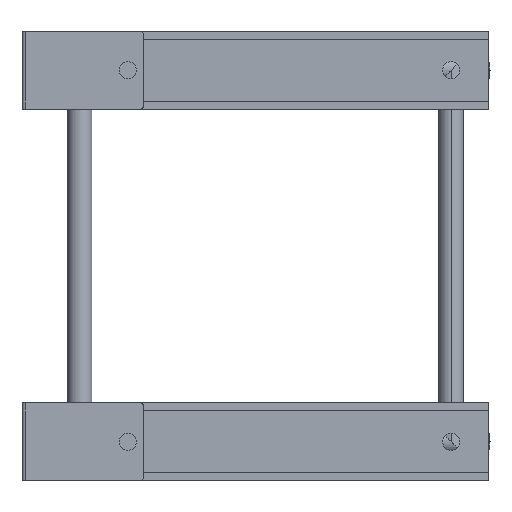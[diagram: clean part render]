
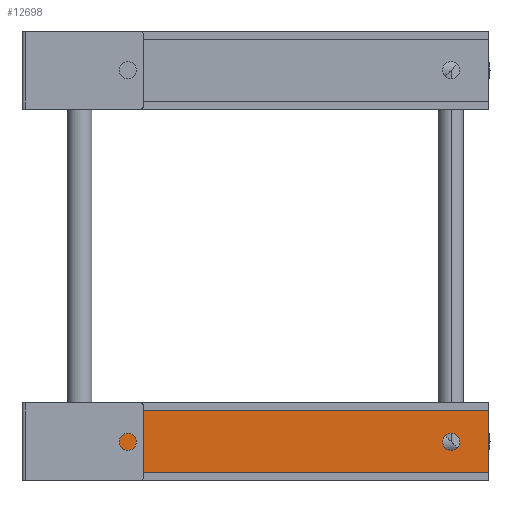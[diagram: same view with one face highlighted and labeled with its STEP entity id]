
A CAD part, left-side view. The second image highlights one B-rep face of the part: STEP entity #12698.
In plain terms, the highlighted planar face has unit normal (-1, 0, 0).
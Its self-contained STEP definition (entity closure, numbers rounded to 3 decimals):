
#10680 = CARTESIAN_POINT ( 'NONE',  ( 320., -222., 45. ) ) ;
#10752 = DIRECTION ( 'NONE',  ( 0., 1., 0. ) ) ;
#10753 = VECTOR ( 'NONE', #10752, 1000. ) ;
#10754 = CARTESIAN_POINT ( 'NONE',  ( 320., -222., 45. ) ) ;
#10755 = LINE ( 'NONE', #10754, #10753 ) ;
#10789 = DIRECTION ( 'NONE',  ( 0., 1., 0. ) ) ;
#10790 = DIRECTION ( 'NONE',  ( -1., 0., 0. ) ) ;
#10791 = CARTESIAN_POINT ( 'NONE',  ( 320., 41., 25. ) ) ;
#10792 = AXIS2_PLACEMENT_3D ( 'NONE', #10791, #10790, #10789 ) ;
#10793 = CIRCLE ( 'NONE', #10792, 5.5 ) ;
#10815 = DIRECTION ( 'NONE',  ( 0., 1., 0. ) ) ;
#10817 = DIRECTION ( 'NONE',  ( 1., 0., 0. ) ) ;
#10818 = CARTESIAN_POINT ( 'NONE',  ( 320., -222., 5. ) ) ;
#10820 = AXIS2_PLACEMENT_3D ( 'NONE', #10818, #10817, #10815 ) ;
#10821 = PLANE ( 'NONE',  #10820 ) ;
#10822 = FACE_OUTER_BOUND ( 'NONE', #12443, .T. ) ;
#10823 = FACE_BOUND ( 'NONE', #12625, .T. ) ;
#10824 = FACE_BOUND ( 'NONE', #12510, .T. ) ;
#10832 = DIRECTION ( 'NONE',  ( 0., 1., 0. ) ) ;
#10833 = DIRECTION ( 'NONE',  ( -1., 0., 0. ) ) ;
#10834 = CARTESIAN_POINT ( 'NONE',  ( 320., -198., 25. ) ) ;
#10835 = AXIS2_PLACEMENT_3D ( 'NONE', #10834, #10833, #10832 ) ;
#10836 = CIRCLE ( 'NONE', #10835, 5.5 ) ;
#10883 = DIRECTION ( 'NONE',  ( 0., 0., -1. ) ) ;
#10884 = VECTOR ( 'NONE', #10883, 1000. ) ;
#10885 = CARTESIAN_POINT ( 'NONE',  ( 320., -222., 5. ) ) ;
#10889 = LINE ( 'NONE', #10885, #10884 ) ;
#10977 = DIRECTION ( 'NONE',  ( 0., 1., 0. ) ) ;
#10978 = VECTOR ( 'NONE', #10977, 1000. ) ;
#10979 = CARTESIAN_POINT ( 'NONE',  ( 320., -222., 5. ) ) ;
#10980 = LINE ( 'NONE', #10979, #10978 ) ;
#10984 = CARTESIAN_POINT ( 'NONE',  ( 320., -222., 5. ) ) ;
#11361 = DIRECTION ( 'NONE',  ( 0., 0., -1. ) ) ;
#11362 = VECTOR ( 'NONE', #11361, 1000. ) ;
#11363 = CARTESIAN_POINT ( 'NONE',  ( 320., 70., 5. ) ) ;
#11364 = LINE ( 'NONE', #11363, #11362 ) ;
#11365 = CARTESIAN_POINT ( 'NONE',  ( 320., 70., 5. ) ) ;
#11366 = CARTESIAN_POINT ( 'NONE',  ( 320., 70., 45. ) ) ;
#11738 = VERTEX_POINT ( 'NONE', #10680 ) ;
#12122 = CARTESIAN_POINT ( 'NONE',  ( 320., -198., 19.5 ) ) ;
#12123 = DIRECTION ( 'NONE',  ( 0., 1., 0. ) ) ;
#12124 = DIRECTION ( 'NONE',  ( -1., 0., 0. ) ) ;
#12125 = CARTESIAN_POINT ( 'NONE',  ( 320., -198., 25. ) ) ;
#12126 = AXIS2_PLACEMENT_3D ( 'NONE', #12125, #12124, #12123 ) ;
#12127 = CIRCLE ( 'NONE', #12126, 5.5 ) ;
#12133 = CARTESIAN_POINT ( 'NONE',  ( 320., -198., 30.5 ) ) ;
#12153 = CIRCLE ( 'NONE', #12222, 5.5 ) ;
#12158 = CARTESIAN_POINT ( 'NONE',  ( 320., 41., 19.5 ) ) ;
#12159 = EDGE_CURVE ( 'NONE', #11738, #15235, #10755, .T. ) ;
#12218 = CARTESIAN_POINT ( 'NONE',  ( 320., 41., 30.5 ) ) ;
#12219 = DIRECTION ( 'NONE',  ( 0., 1., 0. ) ) ;
#12220 = DIRECTION ( 'NONE',  ( -1., 0., 0. ) ) ;
#12221 = CARTESIAN_POINT ( 'NONE',  ( 320., 41., 25. ) ) ;
#12222 = AXIS2_PLACEMENT_3D ( 'NONE', #12221, #12220, #12219 ) ;
#12415 = EDGE_CURVE ( 'NONE', #15821, #15818, #10793, .T. ) ;
#12443 = EDGE_LOOP ( 'NONE', ( #13534, #13516, #13401, #13240 ) ) ;
#12458 = ORIENTED_EDGE ( 'NONE', *, *, #12415, .F. ) ;
#12483 = ORIENTED_EDGE ( 'NONE', *, *, #15819, .F. ) ;
#12510 = EDGE_LOOP ( 'NONE', ( #12706, #12677 ) ) ;
#12579 = EDGE_CURVE ( 'NONE', #15790, #15799, #10836, .T. ) ;
#12625 = EDGE_LOOP ( 'NONE', ( #12483, #12458 ) ) ;
#12677 = ORIENTED_EDGE ( 'NONE', *, *, #12579, .F. ) ;
#12698 = ADVANCED_FACE ( 'NONE', ( #10824, #10823, #10822 ), #10821, .F. ) ;
#12706 = ORIENTED_EDGE ( 'NONE', *, *, #15793, .F. ) ;
#13240 = ORIENTED_EDGE ( 'NONE', *, *, #12159, .T. ) ;
#13290 = EDGE_CURVE ( 'NONE', #11738, #13479, #10889, .T. ) ;
#13401 = ORIENTED_EDGE ( 'NONE', *, *, #13290, .F. ) ;
#13479 = VERTEX_POINT ( 'NONE', #10984 ) ;
#13480 = EDGE_CURVE ( 'NONE', #13479, #15237, #10980, .T. ) ;
#13516 = ORIENTED_EDGE ( 'NONE', *, *, #13480, .F. ) ;
#13534 = ORIENTED_EDGE ( 'NONE', *, *, #15238, .T. ) ;
#15235 = VERTEX_POINT ( 'NONE', #11366 ) ;
#15237 = VERTEX_POINT ( 'NONE', #11365 ) ;
#15238 = EDGE_CURVE ( 'NONE', #15235, #15237, #11364, .T. ) ;
#15790 = VERTEX_POINT ( 'NONE', #12133 ) ;
#15793 = EDGE_CURVE ( 'NONE', #15799, #15790, #12127, .T. ) ;
#15799 = VERTEX_POINT ( 'NONE', #12122 ) ;
#15818 = VERTEX_POINT ( 'NONE', #12158 ) ;
#15819 = EDGE_CURVE ( 'NONE', #15818, #15821, #12153, .T. ) ;
#15821 = VERTEX_POINT ( 'NONE', #12218 ) ;
